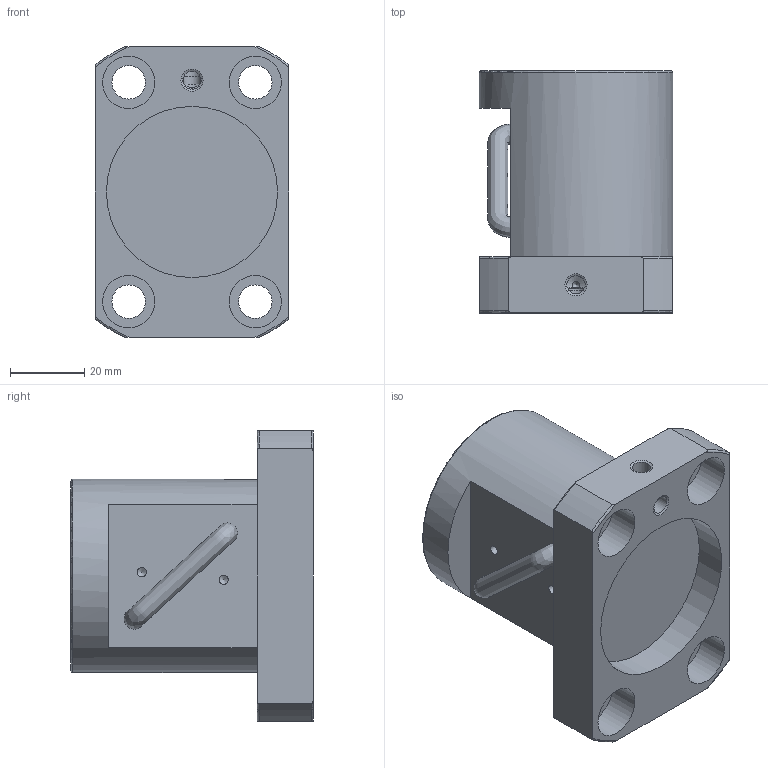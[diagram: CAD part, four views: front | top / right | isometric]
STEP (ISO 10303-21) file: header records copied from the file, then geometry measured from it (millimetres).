
FILE_DESCRIPTION(/* description */ ('Unknown'),/* implementation_level */ '2;1');
FILE_NAME(/* name */ '2510',/* time_stamp */ '2020-12-14T14:25:47+08:00',/* author */ ('Unknown'),/* organization */ ('Unknown'),/* preprocessor_version */ 'ST-DEVELOPER v16.7',/* originating_system */ 'DEX',/* authorisation */ $);
FILE_SCHEMA (('AUTOMOTIVE_DESIGN {1 0 10303 214 3 1 1}'));
Length unit declared in the file: millimetre
Products named in the file (1): 2510
Bounding box: 52 x 65 x 78 mm (x, y, z)
Volume: 122308.1 mm3; surface area: 25113.9 mm2
Topology: 1 solids, 1 shells, 55 faces, 146 edges, 98 vertices
Faces by surface type: cylinder 21, plane 15, cone 9, torus 9, bspline 1
Full cylindrical faces by diameter (mm): 2.459 x2, 4.917 x2, 9 x4, 14 x4, 46 x2, 52 x1
Entity records: 3781 total; most frequent: CARTESIAN_POINT 2141, DIRECTION 261, ORIENTED_EDGE 218, AXIS2_PLACEMENT_3D 120, EDGE_CURVE 109, FACE_BOUND 97, EDGE_LOOP 94, VERTEX_POINT 86
